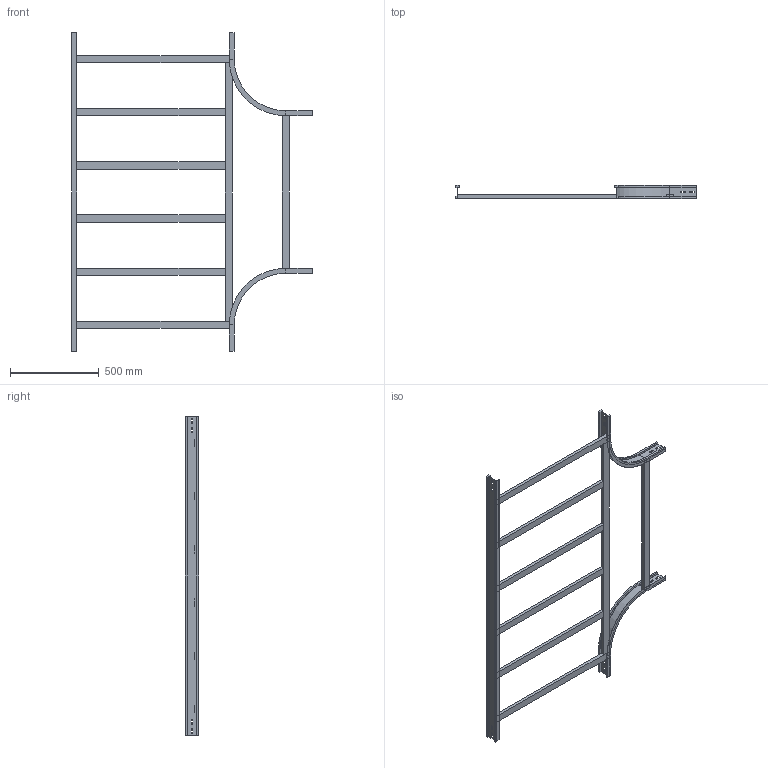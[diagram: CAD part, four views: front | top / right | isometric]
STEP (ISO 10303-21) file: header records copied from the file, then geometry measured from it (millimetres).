
FILE_DESCRIPTION (( 'STEP AP214' ), '1' );
FILE_NAME ('15S3C900.step', '2025-02-21T16:15:07', ( '' ), ( '' ), 'SwSTEP 2.0', 'SolidWorks 2023', '' );
FILE_SCHEMA (( 'AUTOMOTIVE_DESIGN' ));
Length unit declared in the file: millimetre
Products named in the file (6): LONGH.RETT_H75_R300+900; 15S3C900; LONGH.INTERNO 90°_H75_R300; TRAVERSINO_900; TRAVERSINO_INTERMEDIO_R300+900; TRAVERSINO_LONG._R300+900
Assembly tree (11 placements, depth 2):
  15S3C900
    LONGH.INTERNO 90°_H75_R300  x2
    LONGH.RETT_H75_R300+900
    TRAVERSINO_900  x3
    TRAVERSINO_LONG._R300+900
    TRAVERSINO_INTERMEDIO_R300+900  x4
Bounding box: 1359 x 75 x 1800 mm (x, y, z)
Volume: 7781120.8 mm3; surface area: 1755428.9 mm2
Topology: 11 solids, 11 shells, 186 faces, 444 edges, 280 vertices
Faces by surface type: plane 174, cylinder 12
Entity records: 3203 total; most frequent: CARTESIAN_POINT 528, ORIENTED_EDGE 504, DIRECTION 496, EDGE_CURVE 252, LINE 240, VECTOR 240, VERTEX_POINT 160, AXIS2_PLACEMENT_3D 128
